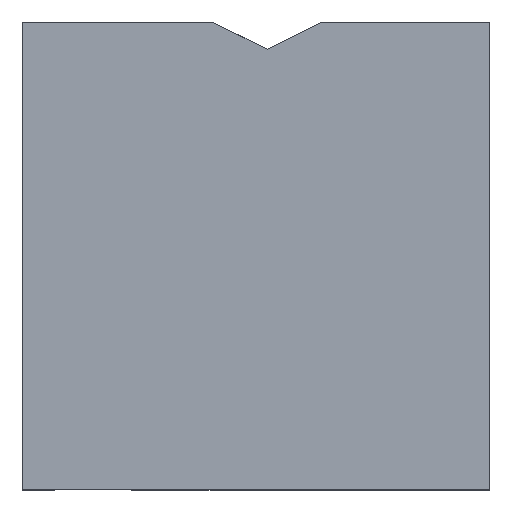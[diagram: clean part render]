
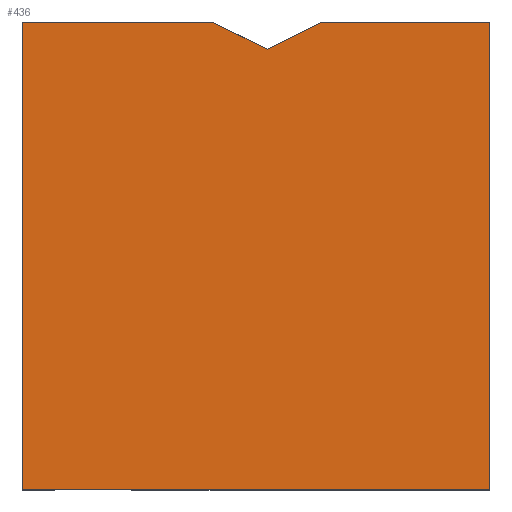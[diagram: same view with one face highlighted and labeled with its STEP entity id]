
A CAD part, top view. The second image highlights one B-rep face of the part: STEP entity #436.
In plain terms, the highlighted planar face has unit normal (0, 0, 1).
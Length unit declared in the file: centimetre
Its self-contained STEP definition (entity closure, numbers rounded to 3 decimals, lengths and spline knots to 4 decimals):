
#11 = LINE ( 'NONE', #902, #386 ) ;
#21 = EDGE_CURVE ( 'NONE', #253, #216, #11, .T. ) ;
#120 = ORIENTED_EDGE ( 'NONE', *, *, #446, .T. ) ;
#175 = VECTOR ( 'NONE', #1612, 100. ) ;
#216 = VERTEX_POINT ( 'NONE', #1695 ) ;
#253 = VERTEX_POINT ( 'NONE', #274 ) ;
#274 = CARTESIAN_POINT ( 'NONE',  ( 1000., 0., 1000. ) ) ;
#298 = CARTESIAN_POINT ( 'NONE',  ( 0., 1000., 1000. ) ) ;
#332 = CARTESIAN_POINT ( 'NONE',  ( 404.8781, 1000., 1000. ) ) ;
#337 = VERTEX_POINT ( 'NONE', #1600 ) ;
#386 = VECTOR ( 'NONE', #619, 100. ) ;
#394 = DIRECTION ( 'NONE',  ( -1., 0., 0. ) ) ;
#419 = VERTEX_POINT ( 'NONE', #1641 ) ;
#427 = VECTOR ( 'NONE', #447, 100. ) ;
#436 = ADVANCED_FACE ( 'NONE', ( #1208 ), #1054, .T. ) ;
#439 = LINE ( 'NONE', #754, #427 ) ;
#446 = EDGE_CURVE ( 'NONE', #451, #337, #439, .T. ) ;
#447 = DIRECTION ( 'NONE',  ( 0., -1., 0. ) ) ;
#451 = VERTEX_POINT ( 'NONE', #298 ) ;
#525 = EDGE_CURVE ( 'NONE', #216, #419, #1239, .T. ) ;
#550 = DIRECTION ( 'NONE',  ( -0.9, 0.436, 0. ) ) ;
#585 = ORIENTED_EDGE ( 'NONE', *, *, #21, .T. ) ;
#598 = DIRECTION ( 'NONE',  ( 1., 0., 0. ) ) ;
#619 = DIRECTION ( 'NONE',  ( 0., 1., 0. ) ) ;
#637 = CARTESIAN_POINT ( 'NONE',  ( 0., 1000., 1000. ) ) ;
#729 = EDGE_CURVE ( 'NONE', #1341, #451, #1736, .T. ) ;
#754 = CARTESIAN_POINT ( 'NONE',  ( 0., 1000., 1000. ) ) ;
#787 = DIRECTION ( 'NONE',  ( -1., 0., 0. ) ) ;
#887 = LINE ( 'NONE', #1013, #175 ) ;
#902 = CARTESIAN_POINT ( 'NONE',  ( 1000., 1000., 1000. ) ) ;
#942 = EDGE_CURVE ( 'NONE', #1912, #1341, #948, .T. ) ;
#948 = LINE ( 'NONE', #995, #1323 ) ;
#995 = CARTESIAN_POINT ( 'NONE',  ( 404.8781, 1000., 1000. ) ) ;
#1013 = CARTESIAN_POINT ( 'NONE',  ( 0., 0., 1000. ) ) ;
#1032 = EDGE_CURVE ( 'NONE', #419, #1912, #1409, .T. ) ;
#1054 = PLANE ( 'NONE',  #1353 ) ;
#1160 = CARTESIAN_POINT ( 'NONE',  ( 524.1601, 942.1493, 1000. ) ) ;
#1208 = FACE_OUTER_BOUND ( 'NONE', #1749, .T. ) ;
#1239 = LINE ( 'NONE', #637, #1454 ) ;
#1253 = ORIENTED_EDGE ( 'NONE', *, *, #1928, .T. ) ;
#1262 = CARTESIAN_POINT ( 'NONE',  ( 524.1601, 942.1493, 1000. ) ) ;
#1323 = VECTOR ( 'NONE', #550, 100. ) ;
#1341 = VERTEX_POINT ( 'NONE', #332 ) ;
#1353 = AXIS2_PLACEMENT_3D ( 'NONE', #1934, #1497, #598 ) ;
#1409 = LINE ( 'NONE', #1262, #1711 ) ;
#1442 = ORIENTED_EDGE ( 'NONE', *, *, #1032, .T. ) ;
#1454 = VECTOR ( 'NONE', #787, 100. ) ;
#1457 = ORIENTED_EDGE ( 'NONE', *, *, #942, .T. ) ;
#1489 = ORIENTED_EDGE ( 'NONE', *, *, #729, .T. ) ;
#1497 = DIRECTION ( 'NONE',  ( 0., 0., 1. ) ) ;
#1600 = CARTESIAN_POINT ( 'NONE',  ( 0., 0., 1000. ) ) ;
#1607 = CARTESIAN_POINT ( 'NONE',  ( 0., 1000., 1000. ) ) ;
#1612 = DIRECTION ( 'NONE',  ( 1., 0., 0. ) ) ;
#1641 = CARTESIAN_POINT ( 'NONE',  ( 643.4421, 1000., 1000. ) ) ;
#1645 = ORIENTED_EDGE ( 'NONE', *, *, #525, .T. ) ;
#1695 = CARTESIAN_POINT ( 'NONE',  ( 1000., 1000., 1000. ) ) ;
#1709 = VECTOR ( 'NONE', #394, 100. ) ;
#1711 = VECTOR ( 'NONE', #1862, 100. ) ;
#1736 = LINE ( 'NONE', #1607, #1709 ) ;
#1749 = EDGE_LOOP ( 'NONE', ( #1457, #1489, #120, #1253, #585, #1645, #1442 ) ) ;
#1862 = DIRECTION ( 'NONE',  ( -0.9, -0.436, 0. ) ) ;
#1912 = VERTEX_POINT ( 'NONE', #1160 ) ;
#1928 = EDGE_CURVE ( 'NONE', #337, #253, #887, .T. ) ;
#1934 = CARTESIAN_POINT ( 'NONE',  ( 0., 0., 1000. ) ) ;
